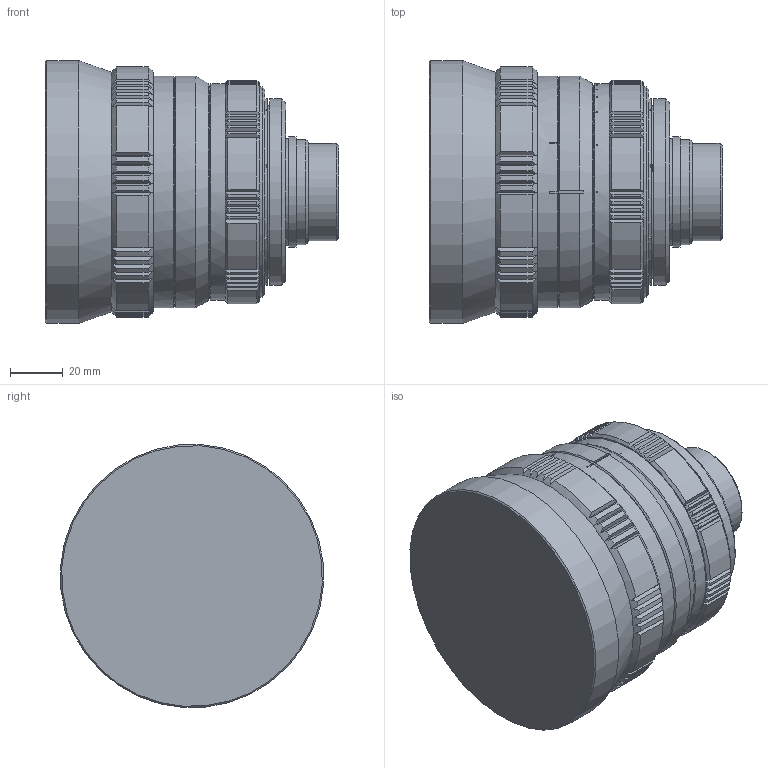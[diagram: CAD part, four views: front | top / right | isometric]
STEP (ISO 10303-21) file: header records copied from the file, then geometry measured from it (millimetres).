
FILE_DESCRIPTION((''),'2;1');
FILE_NAME('C:\Users\dblandino\Desktop\C0811_003_001.stp','2014-04-28T11:54:46',('dblandino'),(''),'Autodesk Inventor 2010','Autodesk Inventor 2010','');
FILE_SCHEMA(('AUTOMOTIVE_DESIGN { 1 0 10303 214 1 1 1 1 }'));
Length unit declared in the file: millimetre
Products named in the file (2): C0811_003_001.iam (Livello di dettaglio sostituto1); C0811_003_001_SUB
Assembly tree (1 placements, depth 2):
  C0811_003_001.iam (Livello di dettaglio sostituto1)
    C0811_003_001_SUB
Bounding box: 111.32 x 99.76 x 99.76 mm (x, y, z)
Volume: 594838.9 mm3; surface area: 46316.4 mm2
Topology: 1 solids, 2 shells, 496 faces, 1329 edges, 853 vertices
Faces by surface type: plane 279, cylinder 110, cone 101, bspline 6
Full cylindrical faces by diameter (mm): 37 x1, 40 x1, 40.7 x1, 42 x1, 43 x1, 44 x1, 65.5 x1, 71 x1, 80 x1, 82 x1, 88 x1, 100 x1
Entity records: 15478 total; most frequent: CARTESIAN_POINT 3379, ORIENTED_EDGE 2596, DIRECTION 2319, EDGE_CURVE 1298, AXIS2_PLACEMENT_3D 873, VERTEX_POINT 844, VECTOR 573, LINE 573
